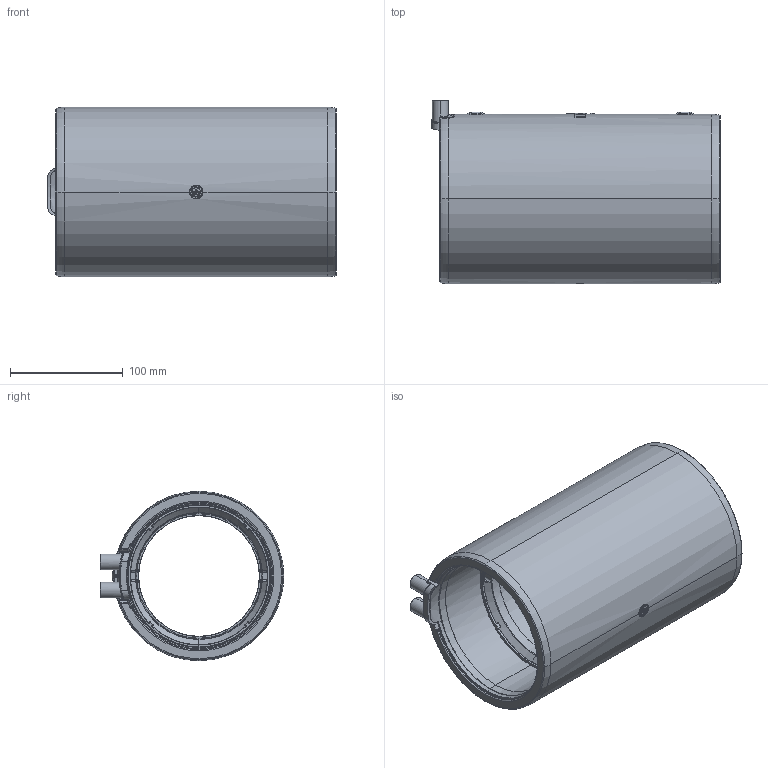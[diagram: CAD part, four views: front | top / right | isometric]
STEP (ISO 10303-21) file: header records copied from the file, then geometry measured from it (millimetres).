
FILE_DESCRIPTION (( 'STEP AP214' ), '1' );
FILE_NAME ('KP_2-125-110SCA.STEP', '2023-12-14T08:52:03', ( '' ), ( '' ), 'SwSTEP 2.0', 'SolidWorks 2023', '' );
FILE_SCHEMA (( 'AUTOMOTIVE_DESIGN' ));
Length unit declared in the file: millimetre
Products named in the file (1): KP_2-125-110SCA
Bounding box: 256.05 x 162.6 x 150.2 mm (x, y, z)
Volume: 1582625.2 mm3; surface area: 434087.5 mm2
Topology: 1 solids, 3 shells, 1459 faces, 3672 edges, 2224 vertices
Faces by surface type: plane 409, cylinder 331, bspline 307, torus 225, sphere 102, cone 85
Entity records: 56657 total; most frequent: CARTESIAN_POINT 25066, ORIENTED_EDGE 7212, DIRECTION 5941, EDGE_CURVE 3606, AXIS2_PLACEMENT_3D 2416, VERTEX_POINT 2200, EDGE_LOOP 1536, FACE_OUTER_BOUND 1459
